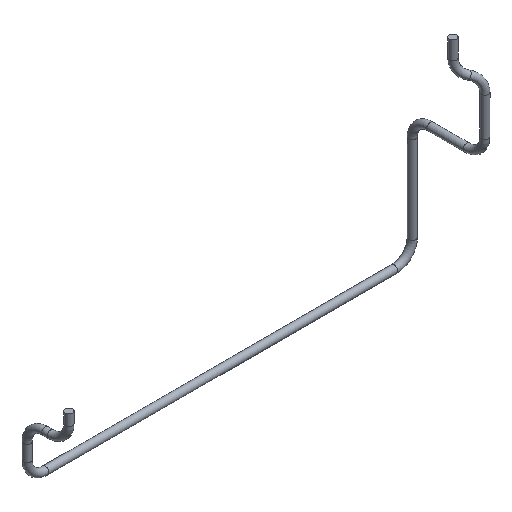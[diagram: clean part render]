
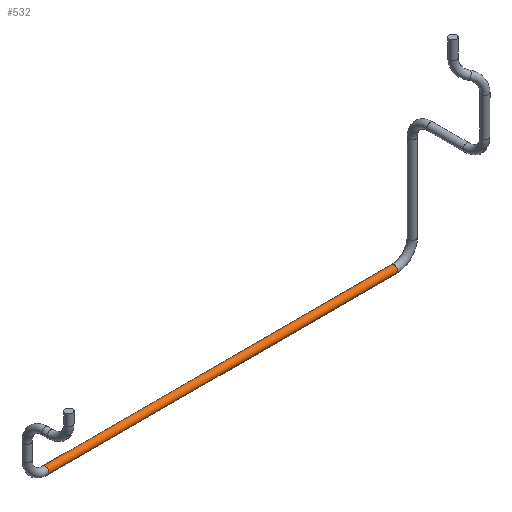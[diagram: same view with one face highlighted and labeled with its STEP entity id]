
A CAD part, isometric view. The second image highlights one B-rep face of the part: STEP entity #532.
In plain terms, the highlighted cylindrical face has radius 1 mm (diameter 2 mm), a full revolution.
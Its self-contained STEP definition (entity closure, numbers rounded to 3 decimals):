
#466 = TOROIDAL_SURFACE('',#467,5.,1.);
#467 = AXIS2_PLACEMENT_3D('',#468,#469,#470);
#468 = CARTESIAN_POINT('',(537.,526.,741.));
#469 = DIRECTION('',(-0.,1.,0.));
#470 = DIRECTION('',(1.,0.,0.));
#483 = VERTEX_POINT('',#484);
#484 = CARTESIAN_POINT('',(537.,526.,737.));
#505 = EDGE_CURVE('',#483,#483,#506,.T.);
#506 = SURFACE_CURVE('',#507,(#512,#519),.PCURVE_S1.);
#507 = CIRCLE('',#508,1.);
#508 = AXIS2_PLACEMENT_3D('',#509,#510,#511);
#509 = CARTESIAN_POINT('',(537.,526.,736.));
#510 = DIRECTION('',(1.,0.,0.));
#511 = DIRECTION('',(0.,0.,-1.));
#512 = PCURVE('',#466,#513);
#513 = DEFINITIONAL_REPRESENTATION('',(#514),#518);
#514 = LINE('',#515,#516);
#515 = CARTESIAN_POINT('',(1.571,0.));
#516 = VECTOR('',#517,1.);
#517 = DIRECTION('',(0.,1.));
#518 = ( GEOMETRIC_REPRESENTATION_CONTEXT(2) 
PARAMETRIC_REPRESENTATION_CONTEXT() REPRESENTATION_CONTEXT('2D SPACE',''
  ) );
#519 = PCURVE('',#520,#525);
#520 = CYLINDRICAL_SURFACE('',#521,1.);
#521 = AXIS2_PLACEMENT_3D('',#522,#523,#524);
#522 = CARTESIAN_POINT('',(537.,526.,736.));
#523 = DIRECTION('',(-1.,0.,0.));
#524 = DIRECTION('',(0.,0.,1.));
#525 = DEFINITIONAL_REPRESENTATION('',(#526),#529);
#526 = B_SPLINE_CURVE_WITH_KNOTS('',1,(#527,#528),.UNSPECIFIED.,.F.,.F.,
  (2,2),(3.142,9.425),.PIECEWISE_BEZIER_KNOTS.);
#527 = CARTESIAN_POINT('',(6.283,0.));
#528 = CARTESIAN_POINT('',(0.,0.));
#529 = ( GEOMETRIC_REPRESENTATION_CONTEXT(2) 
PARAMETRIC_REPRESENTATION_CONTEXT() REPRESENTATION_CONTEXT('2D SPACE',''
  ) );
#532 = ADVANCED_FACE('',(#533),#520,.T.);
#533 = FACE_BOUND('',#534,.T.);
#534 = EDGE_LOOP('',(#535,#557,#583,#584));
#535 = ORIENTED_EDGE('',*,*,#536,.T.);
#536 = EDGE_CURVE('',#483,#537,#539,.T.);
#537 = VERTEX_POINT('',#538);
#538 = CARTESIAN_POINT('',(441.,526.,737.));
#539 = SEAM_CURVE('',#540,(#544,#550),.PCURVE_S1.);
#540 = LINE('',#541,#542);
#541 = CARTESIAN_POINT('',(537.,526.,737.));
#542 = VECTOR('',#543,1.);
#543 = DIRECTION('',(-1.,0.,0.));
#544 = PCURVE('',#520,#545);
#545 = DEFINITIONAL_REPRESENTATION('',(#546),#549);
#546 = B_SPLINE_CURVE_WITH_KNOTS('',1,(#547,#548),.UNSPECIFIED.,.F.,.F.,
  (2,2),(0.,96.),.PIECEWISE_BEZIER_KNOTS.);
#547 = CARTESIAN_POINT('',(6.283,0.));
#548 = CARTESIAN_POINT('',(6.283,96.));
#549 = ( GEOMETRIC_REPRESENTATION_CONTEXT(2) 
PARAMETRIC_REPRESENTATION_CONTEXT() REPRESENTATION_CONTEXT('2D SPACE',''
  ) );
#550 = PCURVE('',#520,#551);
#551 = DEFINITIONAL_REPRESENTATION('',(#552),#556);
#552 = LINE('',#553,#554);
#553 = CARTESIAN_POINT('',(0.,0.));
#554 = VECTOR('',#555,1.);
#555 = DIRECTION('',(0.,1.));
#556 = ( GEOMETRIC_REPRESENTATION_CONTEXT(2) 
PARAMETRIC_REPRESENTATION_CONTEXT() REPRESENTATION_CONTEXT('2D SPACE',''
  ) );
#557 = ORIENTED_EDGE('',*,*,#558,.F.);
#558 = EDGE_CURVE('',#537,#537,#559,.T.);
#559 = SURFACE_CURVE('',#560,(#565,#572),.PCURVE_S1.);
#560 = CIRCLE('',#561,1.);
#561 = AXIS2_PLACEMENT_3D('',#562,#563,#564);
#562 = CARTESIAN_POINT('',(441.,526.,736.));
#563 = DIRECTION('',(-1.,0.,0.));
#564 = DIRECTION('',(0.,0.,1.));
#565 = PCURVE('',#520,#566);
#566 = DEFINITIONAL_REPRESENTATION('',(#567),#571);
#567 = LINE('',#568,#569);
#568 = CARTESIAN_POINT('',(0.,96.));
#569 = VECTOR('',#570,1.);
#570 = DIRECTION('',(1.,0.));
#571 = ( GEOMETRIC_REPRESENTATION_CONTEXT(2) 
PARAMETRIC_REPRESENTATION_CONTEXT() REPRESENTATION_CONTEXT('2D SPACE',''
  ) );
#572 = PCURVE('',#573,#578);
#573 = TOROIDAL_SURFACE('',#574,5.,1.);
#574 = AXIS2_PLACEMENT_3D('',#575,#576,#577);
#575 = CARTESIAN_POINT('',(441.,526.,741.));
#576 = DIRECTION('',(0.,1.,0.));
#577 = DIRECTION('',(0.,0.,-1.));
#578 = DEFINITIONAL_REPRESENTATION('',(#579),#582);
#579 = B_SPLINE_CURVE_WITH_KNOTS('',1,(#580,#581),.UNSPECIFIED.,.F.,.F.,
  (2,2),(0.,6.283),.PIECEWISE_BEZIER_KNOTS.);
#580 = CARTESIAN_POINT('',(0.,9.425));
#581 = CARTESIAN_POINT('',(0.,3.142));
#582 = ( GEOMETRIC_REPRESENTATION_CONTEXT(2) 
PARAMETRIC_REPRESENTATION_CONTEXT() REPRESENTATION_CONTEXT('2D SPACE',''
  ) );
#583 = ORIENTED_EDGE('',*,*,#536,.F.);
#584 = ORIENTED_EDGE('',*,*,#505,.F.);
